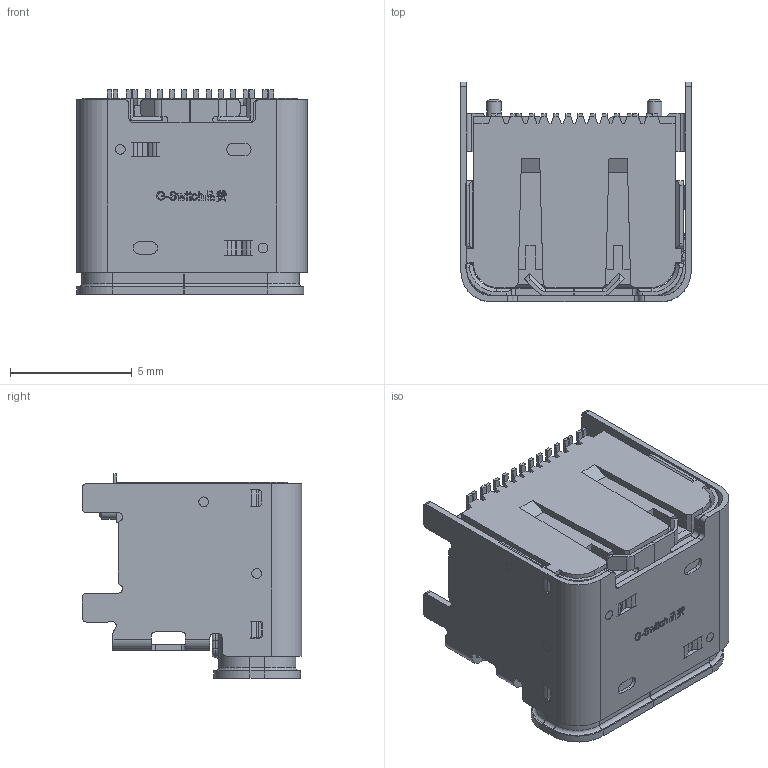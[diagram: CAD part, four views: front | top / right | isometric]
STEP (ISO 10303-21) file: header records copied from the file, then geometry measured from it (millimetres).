
FILE_DESCRIPTION (( 'STEP AP203' ), '1' );
FILE_NAME ('GT-USB-9016A01.stp', '2024-12-21T08:20:24', ( '' ), ( '' ), 'SwSTEP 2.0', 'SolidWorks 2023', '' );
FILE_SCHEMA (( 'CONFIG_CONTROL_DESIGN' ));
Length unit declared in the file: millimetre
Products named in the file (1): GT-USB-9016A01
Bounding box: 9.48 x 9.03 x 8.4 mm (x, y, z)
Surface area: 1089.7 mm2 (no closed solid volume)
Topology: 0 solids, 21 shells, 1552 faces, 4331 edges, 2838 vertices
Faces by surface type: plane 1082, cylinder 352, bspline 74, torus 32, cone 12
Entity records: 56289 total; most frequent: CARTESIAN_POINT 21597, ORIENTED_EDGE 8652, DIRECTION 4907, EDGE_CURVE 4331, VERTEX_POINT 2838, B_SPLINE_CURVE_WITH_KNOTS 2624, AXIS2_PLACEMENT_3D 1726, EDGE_LOOP 1626
